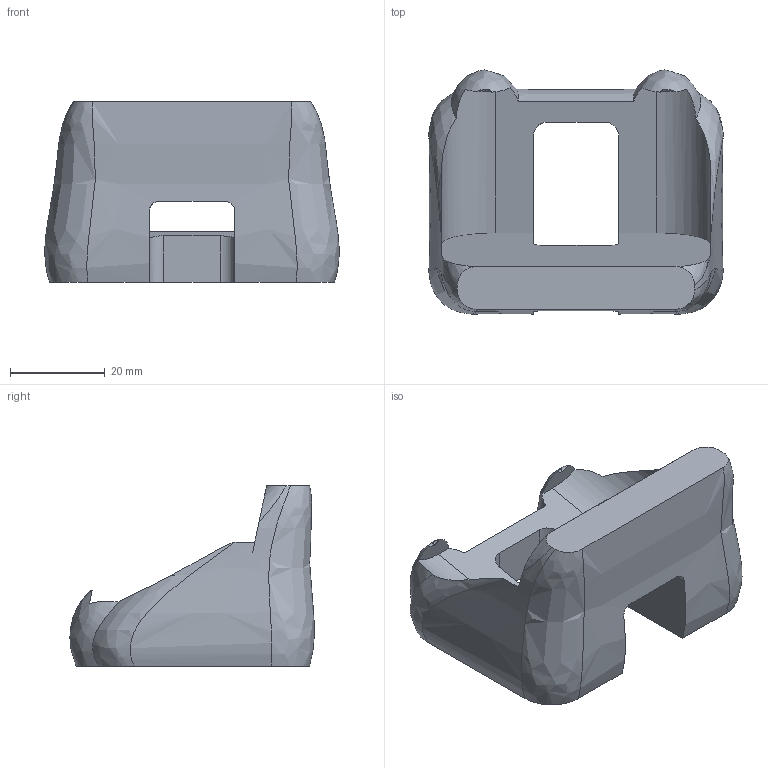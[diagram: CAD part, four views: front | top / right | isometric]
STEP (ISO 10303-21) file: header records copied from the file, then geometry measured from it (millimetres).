
FILE_DESCRIPTION(('Open CASCADE Model'),'2;1');
FILE_NAME('Open CASCADE Shape Model','2026-09-27T04:51:29',('Author'),( 'Open CASCADE'),'Open CASCADE STEP processor 7.8','Open CASCADE 7.8' ,'Unknown');
FILE_SCHEMA(('AUTOMOTIVE_DESIGN { 1 0 10303 214 1 1 1 1 }'));
Length unit declared in the file: millimetre
Products named in the file (1): Open CASCADE STEP translator 7.8 1
Bounding box: 62 x 51.46 x 38 mm (x, y, z)
Volume: 38750.7 mm3; surface area: 11851.8 mm2
Topology: 1 solids, 1 shells, 37 faces, 112 edges, 75 vertices
Faces by surface type: plane 14, bspline 13, cylinder 6, torus 4
Entity records: 8709 total; most frequent: CARTESIAN_POINT 6831, DIRECTION 230, ORIENTED_EDGE 224, PCURVE 224, DEFINITIONAL_REPRESENTATION 224, B_SPLINE_CURVE_WITH_KNOTS 168, LINE 134, VECTOR 134
